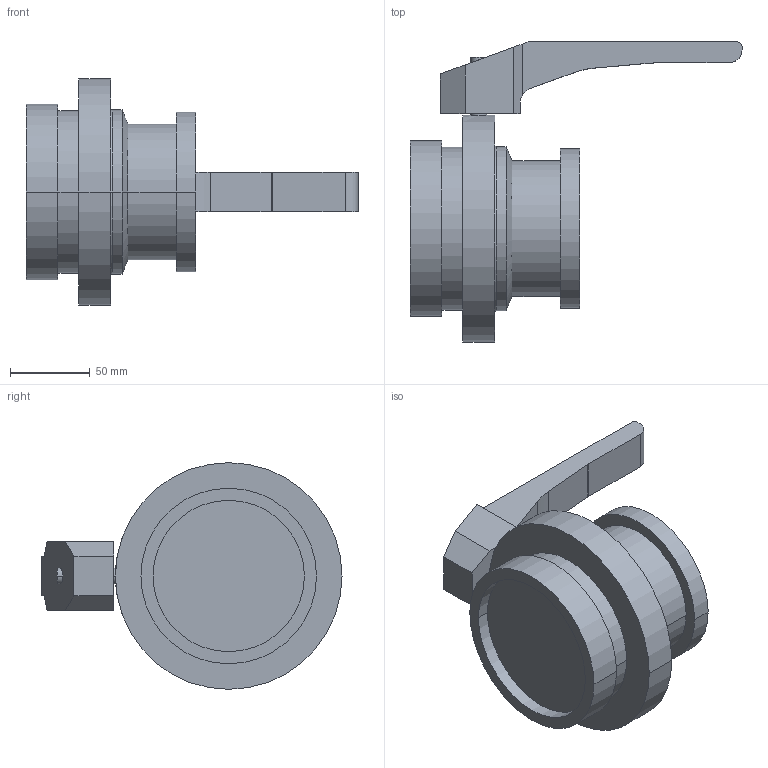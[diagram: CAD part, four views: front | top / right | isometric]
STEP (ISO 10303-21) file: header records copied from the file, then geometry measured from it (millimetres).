
FILE_DESCRIPTION(('OneSpaceDesigner STEP Export'),'2;1');
FILE_NAME('SV1-80-H-1K2G.stp','2011-05-24T15:11:56',(''),(''),'OneSpace Designer STEP processor for AP214 (Solid Model)','OneSpace Modeling 15.00B 25-Jun-2007 (C) CoCreate Software GmbH','');
FILE_SCHEMA(('AUTOMOTIVE_DESIGN { 1 0 10303 214 1 1 1 1 }'));
Length unit declared in the file: millimetre
Products named in the file (3): SV1-80-H-1K2G; Handhebel-SV-40-100
Assembly tree (2 placements, depth 2):
  SV1-80-H-1K2G
    Handhebel-SV-40-100
    SV1-80-H-1K2G
Bounding box: 208 x 188 x 142 mm (x, y, z)
Volume: 1035681.2 mm3; surface area: 96424.2 mm2
Topology: 2 solids, 2 shells, 53 faces, 121 edges, 78 vertices
Faces by surface type: plane 26, cylinder 23, torus 2, cone 2
Entity records: 1817 total; most frequent: CARTESIAN_POINT 621, ORIENTED_EDGE 242, DIRECTION 221, EDGE_CURVE 121, VERTEX_POINT 78, AXIS2_PLACEMENT_3D 77, VECTOR 67, LINE 67
